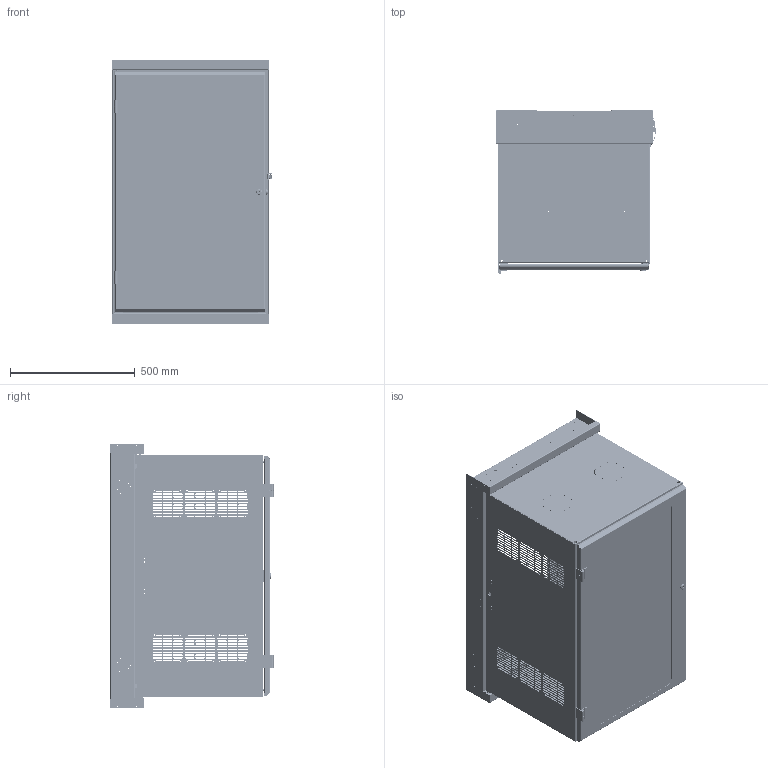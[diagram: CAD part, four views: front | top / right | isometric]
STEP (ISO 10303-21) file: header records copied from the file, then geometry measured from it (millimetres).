
FILE_DESCRIPTION(/* description */ ('Unknown'),/* implementation_level */ '2;1');
FILE_NAME(/* name */ 'HWM2420U20WDWH',/* time_stamp */ '2024-07-29T13:22:42-04:00',/* author */ ('Unknown'),/* organization */ ('Unknown'),/* preprocessor_version */ 'ST-DEVELOPER v18.104',/* originating_system */ 'Solid Edge',/* authorisation */ 'Unknown');
FILE_SCHEMA (('INTEGRATED_CNC_SCHEMA','PROCESS_PLANNING_SCHEMA','AUTOMOTIVE_DESIGN {1 0 10303 214 3 1 1}'));
Products named in the file (49): HWM2420U20WD; COM57687-5; COM56894-2T; STD21878; COM57684-5; HNG14583; COM54375; COM57382-22; COM57384-2; COM57383-1; BSH87667; COM56897-2; FET07734; STR22105; CCH03747; CCH03748-10deg; CCH03748D; CCH03748B; CCH03748E; CCH03748A; CCH03748C; COM56905; LOC13349; LOC13349B; LOC13349A; LAB20204; COM57690-20U; FET07750; COM56910-2; COM57690-2; std26020; COM57333-42; LOC13410; LOC13410B; HNG14605; HNG14605-1; HNG14604-1A; HNG14604-1B; HNG14605-1C; HNG14604-2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
Assembly tree (84 placements, depth 5):
  HWM2420U20WD
    COM57687-5
      COM56894-2T  x2
        STD21878
        COM56894-2T
      COM57684-5  x2
      HNG14583
      COM54375
    COM57382-22
      COM57384-2  x2
      COM57383-1  x2
        STD21878
        COM57383-1
      BSH87667  x4
    COM56897-2  x2
    FET07734  x4
    STR22105
    CCH03747
    CCH03748-10deg
      CCH03748D
      CCH03748B
      CCH03748E
      CCH03748A
      CCH03748C
    COM56905
    LOC13349
      LOC13349B
      LOC13349A
    LAB20204
    COM57690-20U
      FET07750  x2
      COM56910-2  x2
      COM57690-2
        COM57690-2
        std26020  x8
      COM57333-42
      LOC13410
        LOC13410B
        LOC13349A
      HNG14605
        HNG14605-1
          HNG14604-1A
          HNG14604-1B
          HNG14605-1C
        HNG14604-2  x2
        HNG14605-3
      HNG14604
        HNG14604-3
        HNG14604-2  x2
        HNG14604-1
          HNG14604-1A
          HNG14604-1B
          HNG14604-1C
      NTS17050  x6
Bounding box: 641.2 x 654.87 x 1062.02 mm (x, y, z)
Volume: 7248104.5 mm3; surface area: 8306051.3 mm2
Topology: 77 solids, 77 shells, 5150 faces, 14279 edges, 9532 vertices
Faces by surface type: plane 3094, cylinder 1936, bspline 53, cone 46, torus 17, sphere 4
Full cylindrical faces by diameter (mm): 2.54 x2, 3.048 x2, 3.175 x46, 3.454 x4, 3.962 x8, 3.967 x6, 4.039 x8, 4.297 x2, 4.496 x120, 4.775 x58, 4.978 x1, 5.334 x6, 5.461 x2, 5.537 x8, 6 x4, 6.02 x2, 6.1 x2, 6.2 x8, 6.35 x22, 7.137 x8, 7.938 x12, 8.992 x2, 9.246 x4, 9.95 x8, 10 x2, 10.312 x12, 11.125 x2, 11.684 x2, 12.7 x12, 13.005 x1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
Entity records: 92607 total; most frequent: CARTESIAN_POINT 18578, DIRECTION 14948, ORIENTED_EDGE 14706, EDGE_CURVE 7353, AXIS2_PLACEMENT_3D 5085, VERTEX_POINT 5008, LINE 4778, VECTOR 4778
